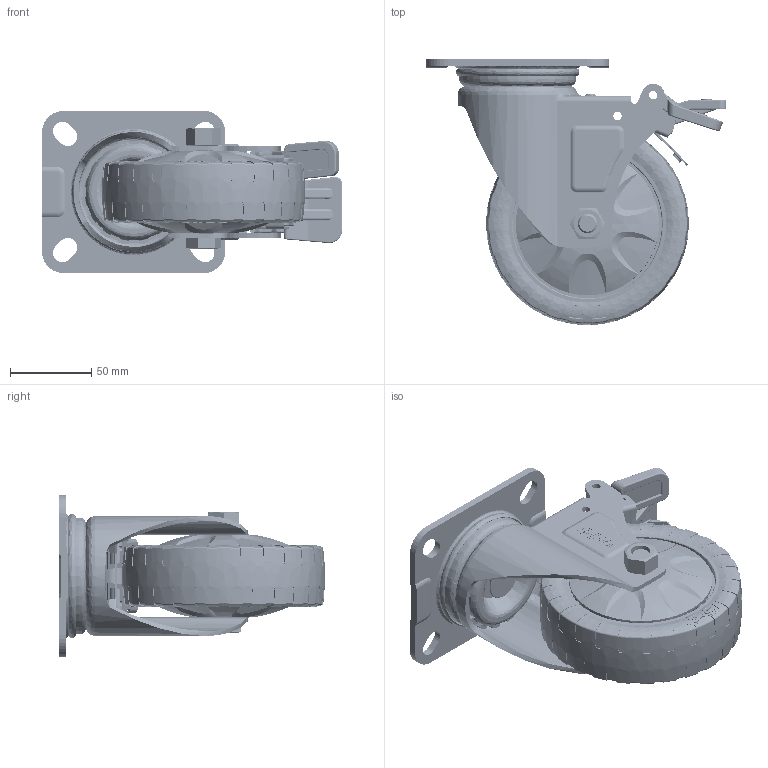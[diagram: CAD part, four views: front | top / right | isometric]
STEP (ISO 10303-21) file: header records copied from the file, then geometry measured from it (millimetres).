
FILE_DESCRIPTION (( 'STEP AP214' ), '1' );
FILE_NAME ('J05S-01D-125-352.STEP', '2025-10-01T10:06:53', ( '' ), ( '' ), 'SwSTEP 2.0', 'SolidWorks 2022', '' );
FILE_SCHEMA (( 'AUTOMOTIVE_DESIGN' ));
Length unit declared in the file: millimetre
Products named in the file (1): J05S-01D-125-352
Bounding box: 184.89 x 163.99 x 100 mm (x, y, z)
Volume: 515544.5 mm3; surface area: 292253.7 mm2
Topology: 17 solids, 17 shells, 7019 faces, 17858 edges, 10892 vertices
Faces by surface type: bspline 2983, plane 1880, cylinder 1499, torus 347, cone 310
Entity records: 423957 total; most frequent: CARTESIAN_POINT 209650, ORIENTED_EDGE 35506, DIRECTION 18888, EDGE_CURVE 17753, VERTEX_POINT 10892, B_SPLINE_CURVE_WITH_KNOTS 8912, AXIS2_PLACEMENT_3D 7398, EDGE_LOOP 7209
